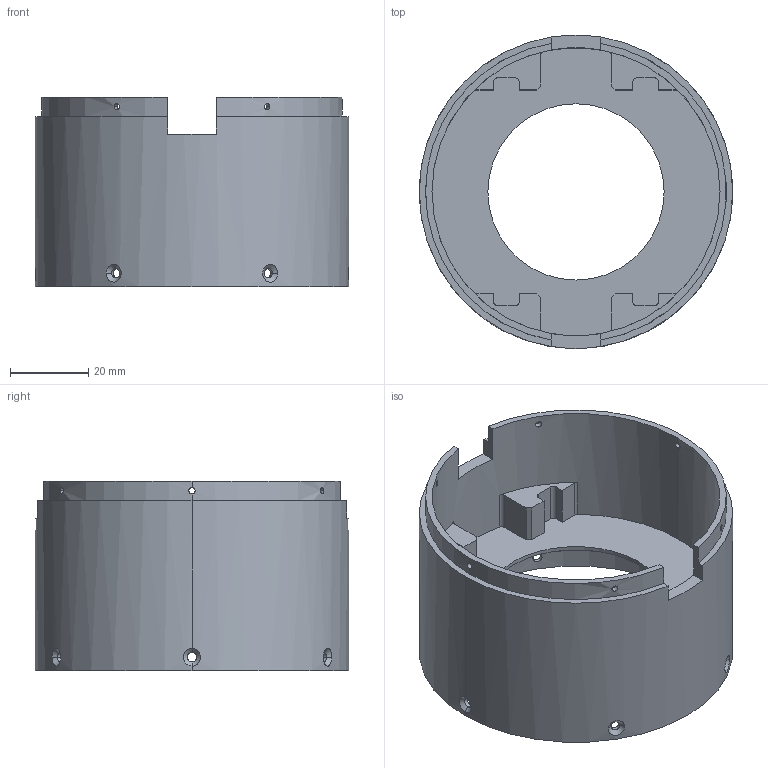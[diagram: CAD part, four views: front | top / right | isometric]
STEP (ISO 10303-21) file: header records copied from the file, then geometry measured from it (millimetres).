
FILE_DESCRIPTION (( 'STEP AP214' ), '1' );
FILE_NAME ('棠そ敖耜裔-囀.STEP', '2026-04-22T06:12:52', ( '' ), ( '' ), 'SwSTEP 2.0', 'SolidWorks 2024', '' );
FILE_SCHEMA (( 'AUTOMOTIVE_DESIGN' ));
Length unit declared in the file: millimetre
Products named in the file (1): 磁屏蔽侧盖-内
Bounding box: 80 x 80 x 48.5 mm (x, y, z)
Volume: 42389.2 mm3; surface area: 30253.1 mm2
Topology: 1 solids, 1 shells, 120 faces, 343 edges, 220 vertices
Faces by surface type: cylinder 62, plane 46, cone 12
Entity records: 4770 total; most frequent: CARTESIAN_POINT 1572, ORIENTED_EDGE 686, DIRECTION 641, EDGE_CURVE 343, AXIS2_PLACEMENT_3D 225, VERTEX_POINT 220, LINE 191, VECTOR 191
